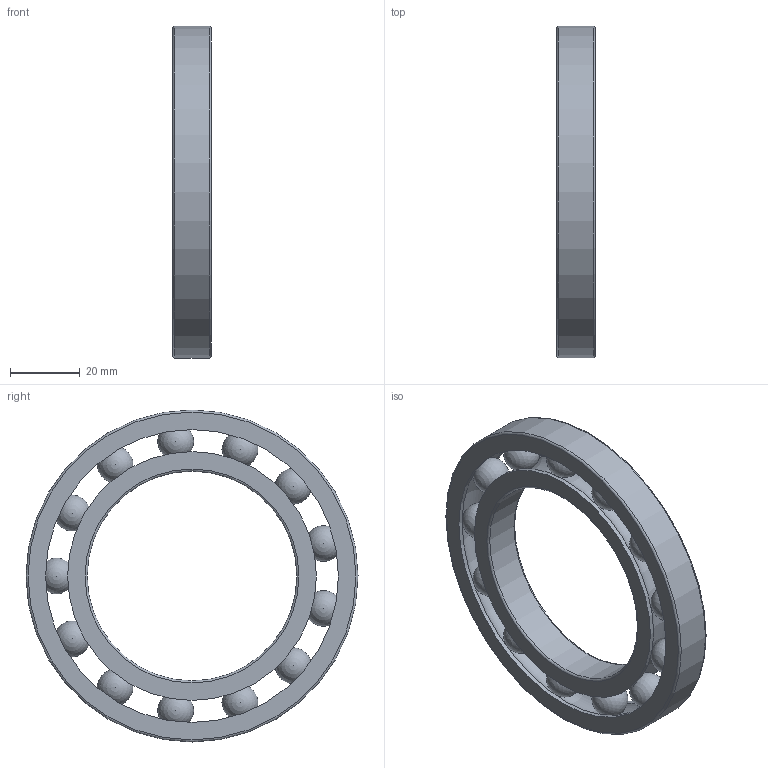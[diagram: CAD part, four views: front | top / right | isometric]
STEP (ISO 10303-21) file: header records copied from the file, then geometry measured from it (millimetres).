
FILE_DESCRIPTION(/* description */ ('STEP AP214'),/* implementation_level */ '2;1');
FILE_NAME(/* name */ '16012',/* time_stamp */ '2024-08-01T09:20:51+02:00',/* author */ ('License CC BY-ND 4.0'),/* organization */ ('CADENAS'),/* preprocessor_version */ 'ST-DEVELOPER v19.3',/* originating_system */ 'PARTsolutions',/* authorisation */ ' ');
FILE_SCHEMA (('AUTOMOTIVE_DESIGN {1 0 10303 214 3 1 1}'));
Length unit declared in the file: millimetre
Products named in the file (4): 16012; 16012 Inner Ring; 16012 Outer Ring; 16012 Ball
Assembly tree (15 placements, depth 2):
  16012
    16012 Inner Ring
    16012 Outer Ring
    16012 Ball  x13
Bounding box: 11 x 95 x 95 mm (x, y, z)
Volume: 31409.6 mm3; surface area: 20920.5 mm2
Topology: 15 solids, 15 shells, 29 faces, 67 edges, 42 vertices
Faces by surface type: sphere 13, torus 6, cylinder 6, plane 4
Full cylindrical faces by diameter (mm): 60 x1, 71.2 x2, 83.8 x2, 95 x1
Entity records: 543 total; most frequent: DIRECTION 98, CARTESIAN_POINT 66, AXIS2_PLACEMENT_3D 49, FACE_BOUND 33, ORIENTED_EDGE 32, EDGE_LOOP 32, PRODUCT_DEFINITION_SHAPE 19, VERTEX_POINT 17
